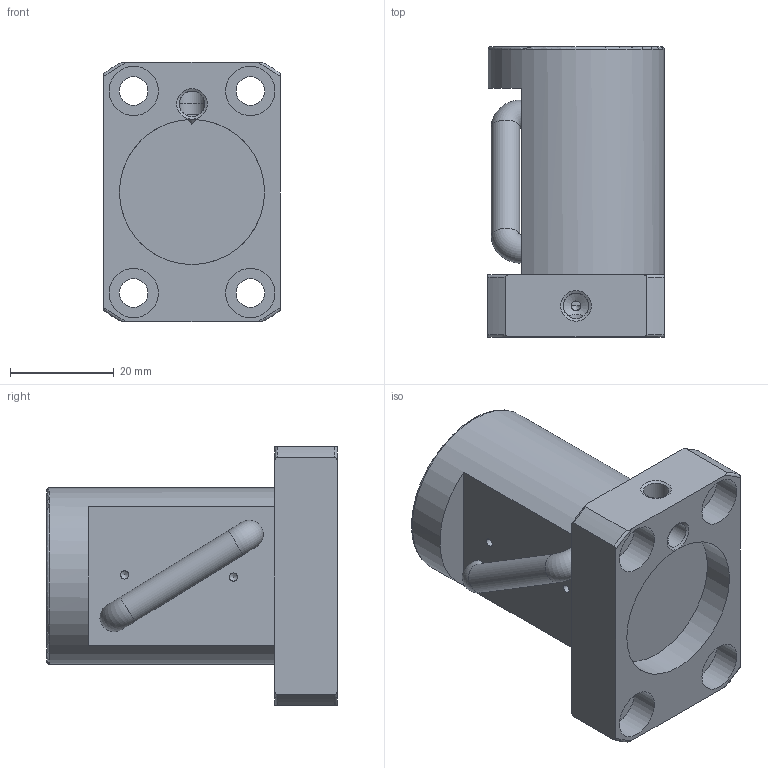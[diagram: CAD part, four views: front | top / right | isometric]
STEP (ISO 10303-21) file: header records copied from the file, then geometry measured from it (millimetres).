
FILE_DESCRIPTION(/* description */ ('Unknown'),/* implementation_level */ '2;1');
FILE_NAME(/* name */ '1616',/* time_stamp */ '2020-11-06T17:09:16+08:00',/* author */ ('Unknown'),/* organization */ ('Unknown'),/* preprocessor_version */ 'ST-DEVELOPER v16.7',/* originating_system */ 'DEX',/* authorisation */ $);
FILE_SCHEMA (('AUTOMOTIVE_DESIGN {1 0 10303 214 3 1 1}'));
Length unit declared in the file: millimetre
Products named in the file (1): 1616
Bounding box: 34 x 56 x 50 mm (x, y, z)
Volume: 46778.9 mm3; surface area: 12811.5 mm2
Topology: 1 solids, 1 shells, 60 faces, 153 edges, 100 vertices
Faces by surface type: cylinder 25, plane 15, torus 11, cone 9
Full cylindrical faces by diameter (mm): 1.567 x2, 4.917 x2, 5.5 x7, 9.5 x4, 28 x2, 34 x1
Entity records: 2778 total; most frequent: CARTESIAN_POINT 1044, DIRECTION 277, ORIENTED_EDGE 224, AXIS2_PLACEMENT_3D 127, EDGE_CURVE 112, FACE_BOUND 106, EDGE_LOOP 104, VERTEX_POINT 88
